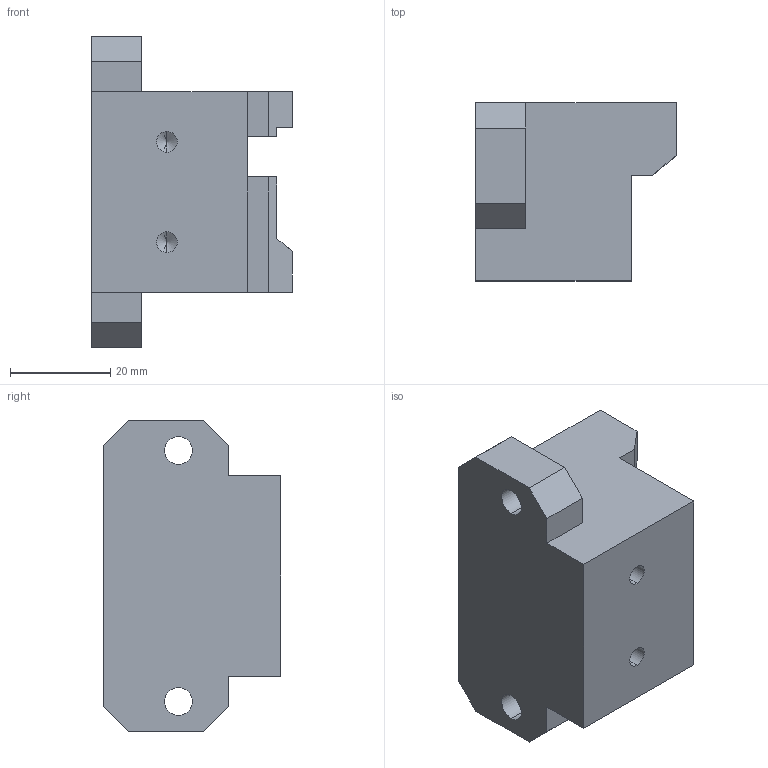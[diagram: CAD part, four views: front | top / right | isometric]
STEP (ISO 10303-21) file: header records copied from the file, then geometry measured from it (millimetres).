
FILE_DESCRIPTION (( 'STEP AP214' ), '1' );
FILE_NAME ('TAT0010044-11-B1固定座.STEP', '2021-05-21T00:33:04', ( '微软中国' ), ( 'Microsoft' ), 'SwSTEP 2.0', 'SolidWorks 2017', '' );
FILE_SCHEMA (( 'AUTOMOTIVE_DESIGN' ));
Length unit declared in the file: millimetre
Products named in the file (1): TAT0010044-11-B1嘐隅釱
Bounding box: 40 x 35.4 x 62 mm (x, y, z)
Volume: 45250.1 mm3; surface area: 11187.2 mm2
Topology: 1 solids, 1 shells, 69 faces, 189 edges, 120 vertices
Faces by surface type: plane 52, cylinder 13, cone 4
Entity records: 2211 total; most frequent: CARTESIAN_POINT 375, ORIENTED_EDGE 370, DIRECTION 351, EDGE_CURVE 185, VECTOR 159, LINE 159, VERTEX_POINT 120, AXIS2_PLACEMENT_3D 96
